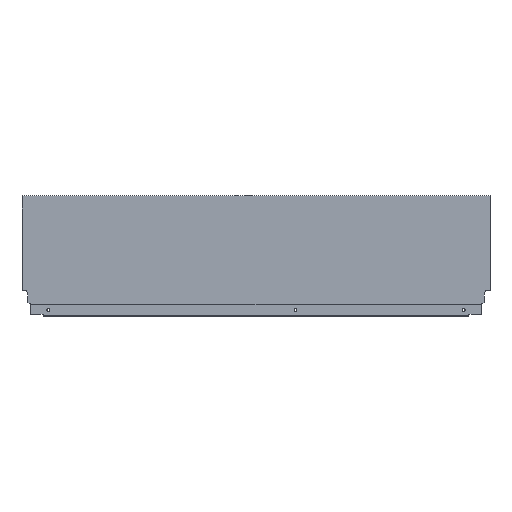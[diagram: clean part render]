
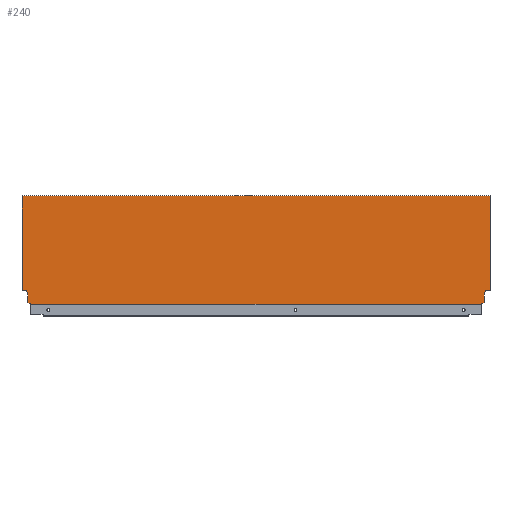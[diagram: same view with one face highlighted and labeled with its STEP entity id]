
A CAD part, top view. The second image highlights one B-rep face of the part: STEP entity #240.
In plain terms, the highlighted planar face has unit normal (0, 0, 1).
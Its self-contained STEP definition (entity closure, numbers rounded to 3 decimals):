
#24 = EDGE_CURVE ( 'NONE', #862, #307, #1053, .T. ) ;
#25 = EDGE_CURVE ( 'NONE', #920, #917, #1058, .T. ) ;
#26 = EDGE_CURVE ( 'NONE', #307, #311, #1057, .T. ) ;
#27 = EDGE_CURVE ( 'NONE', #311, #850, #1056, .T. ) ;
#28 = EDGE_CURVE ( 'NONE', #860, #867, #1061, .T. ) ;
#29 = EDGE_CURVE ( 'NONE', #850, #849, #1063, .T. ) ;
#30 = EDGE_CURVE ( 'NONE', #900, #302, #1070, .T. ) ;
#31 = EDGE_CURVE ( 'NONE', #302, #883, #1065, .T. ) ;
#32 = EDGE_CURVE ( 'NONE', #883, #878, #1067, .T. ) ;
#33 = EDGE_CURVE ( 'NONE', #878, #867, #1069, .T. ) ;
#34 = EDGE_CURVE ( 'NONE', #860, #920, #1073, .T. ) ;
#35 = EDGE_CURVE ( 'NONE', #882, #849, #1075, .T. ) ;
#38 = EDGE_CURVE ( 'NONE', #882, #900, #1079, .T. ) ;
#40 = EDGE_CURVE ( 'NONE', #917, #862, #1084, .T. ) ;
#182 = AXIS2_PLACEMENT_3D ( 'NONE', #619, #621, #631 ) ;
#240 = ADVANCED_FACE ( 'NONE', ( #1325 ), #617, .T. ) ;
#283 = DIRECTION ( 'NONE',  ( 0., 1., 0. ) ) ;
#284 = DIRECTION ( 'NONE',  ( 0., -1., 0. ) ) ;
#285 = CARTESIAN_POINT ( 'NONE',  ( -702.1, 10.765, 7.5 ) ) ;
#287 = CARTESIAN_POINT ( 'NONE',  ( -7.06, 21.2, 7.5 ) ) ;
#302 = VERTEX_POINT ( 'NONE', #654 ) ;
#307 = VERTEX_POINT ( 'NONE', #588 ) ;
#311 = VERTEX_POINT ( 'NONE', #591 ) ;
#312 = CARTESIAN_POINT ( 'NONE',  ( -711., 0., 7.5 ) ) ;
#313 = CARTESIAN_POINT ( 'NONE',  ( -8.9, 10.765, 7.5 ) ) ;
#323 = CARTESIAN_POINT ( 'NONE',  ( -8.9, 2.64, 7.5 ) ) ;
#330 = CARTESIAN_POINT ( 'NONE',  ( -697.996, 1.146, 7.5 ) ) ;
#395 = CARTESIAN_POINT ( 'NONE',  ( 0., 0., 7.5 ) ) ;
#401 = DIRECTION ( 'NONE',  ( 0., -1., 0. ) ) ;
#402 = DIRECTION ( 'NONE',  ( 0., -1., 0. ) ) ;
#403 = DIRECTION ( 'NONE',  ( -0.94, -0.342, 0. ) ) ;
#404 = DIRECTION ( 'NONE',  ( 0., -1., 0. ) ) ;
#408 = CARTESIAN_POINT ( 'NONE',  ( -697.996, 1.146, 7.5 ) ) ;
#409 = DIRECTION ( 'NONE',  ( 0., 1., 0. ) ) ;
#413 = DIRECTION ( 'NONE',  ( 1., 0., 0. ) ) ;
#415 = DIRECTION ( 'NONE',  ( -1., 0., 0. ) ) ;
#416 = CARTESIAN_POINT ( 'NONE',  ( -711., 0., 7.5 ) ) ;
#417 = DIRECTION ( 'NONE',  ( -0.174, 0.985, 0. ) ) ;
#418 = CARTESIAN_POINT ( 'NONE',  ( -711., 164.7, 7.5 ) ) ;
#420 = CARTESIAN_POINT ( 'NONE',  ( -716., 21.2, 7.5 ) ) ;
#428 = CARTESIAN_POINT ( 'NONE',  ( -702.1, 2.64, 7.5 ) ) ;
#439 = CARTESIAN_POINT ( 'NONE',  ( -703.94, 21.2, 7.5 ) ) ;
#449 = DIRECTION ( 'NONE',  ( -0.174, -0.985, 0. ) ) ;
#450 = CARTESIAN_POINT ( 'NONE',  ( -13.004, 1.146, 7.5 ) ) ;
#516 = CARTESIAN_POINT ( 'NONE',  ( 0., 164.7, 7.5 ) ) ;
#521 = CARTESIAN_POINT ( 'NONE',  ( 0., 21.2, 7.5 ) ) ;
#529 = CARTESIAN_POINT ( 'NONE',  ( -702.1, 10.765, 7.5 ) ) ;
#530 = CARTESIAN_POINT ( 'NONE',  ( -697.996, 0., 7.5 ) ) ;
#532 = CARTESIAN_POINT ( 'NONE',  ( -13.004, 1.146, 7.5 ) ) ;
#539 = CARTESIAN_POINT ( 'NONE',  ( -711., 164.7, 7.5 ) ) ;
#548 = CARTESIAN_POINT ( 'NONE',  ( -7.06, 21.2, 7.5 ) ) ;
#555 = CARTESIAN_POINT ( 'NONE',  ( -711., 21.2, 7.5 ) ) ;
#566 = CARTESIAN_POINT ( 'NONE',  ( -703.94, 21.2, 7.5 ) ) ;
#585 = CARTESIAN_POINT ( 'NONE',  ( -13.004, 0., 7.5 ) ) ;
#588 = CARTESIAN_POINT ( 'NONE',  ( -8.9, 10.765, 7.5 ) ) ;
#591 = CARTESIAN_POINT ( 'NONE',  ( -8.9, 2.64, 7.5 ) ) ;
#617 = PLANE ( 'NONE',  #182 ) ;
#619 = CARTESIAN_POINT ( 'NONE',  ( -711., 0., 7.5 ) ) ;
#621 = DIRECTION ( 'NONE',  ( 0., 0., 1. ) ) ;
#631 = DIRECTION ( 'NONE',  ( 1., 0., 0. ) ) ;
#654 = CARTESIAN_POINT ( 'NONE',  ( -702.1, 2.64, 7.5 ) ) ;
#748 = CARTESIAN_POINT ( 'NONE',  ( 0., 21.2, 7.5 ) ) ;
#752 = DIRECTION ( 'NONE',  ( 1., 0., 0. ) ) ;
#757 = DIRECTION ( 'NONE',  ( -1., 0., 0. ) ) ;
#816 = DIRECTION ( 'NONE',  ( -0.94, 0.342, 0. ) ) ;
#849 = VERTEX_POINT ( 'NONE', #585 ) ;
#850 = VERTEX_POINT ( 'NONE', #532 ) ;
#860 = VERTEX_POINT ( 'NONE', #539 ) ;
#862 = VERTEX_POINT ( 'NONE', #548 ) ;
#867 = VERTEX_POINT ( 'NONE', #555 ) ;
#878 = VERTEX_POINT ( 'NONE', #566 ) ;
#882 = VERTEX_POINT ( 'NONE', #530 ) ;
#883 = VERTEX_POINT ( 'NONE', #529 ) ;
#900 = VERTEX_POINT ( 'NONE', #330 ) ;
#917 = VERTEX_POINT ( 'NONE', #521 ) ;
#920 = VERTEX_POINT ( 'NONE', #516 ) ;
#972 = ORIENTED_EDGE ( 'NONE', *, *, #24, .F. ) ;
#973 = ORIENTED_EDGE ( 'NONE', *, *, #25, .F. ) ;
#974 = ORIENTED_EDGE ( 'NONE', *, *, #40, .F. ) ;
#978 = ORIENTED_EDGE ( 'NONE', *, *, #34, .F. ) ;
#982 = ORIENTED_EDGE ( 'NONE', *, *, #26, .F. ) ;
#983 = ORIENTED_EDGE ( 'NONE', *, *, #27, .F. ) ;
#1006 = ORIENTED_EDGE ( 'NONE', *, *, #35, .T. ) ;
#1013 = EDGE_LOOP ( 'NONE', ( #1345, #1346, #1347, #1348, #1349, #1350, #1006, #1022, #983, #982, #972, #974, #973, #978 ) ) ;
#1022 = ORIENTED_EDGE ( 'NONE', *, *, #29, .F. ) ;
#1047 = VECTOR ( 'NONE', #449, 1000. ) ;
#1053 = LINE ( 'NONE', #287, #1047 ) ;
#1056 = LINE ( 'NONE', #323, #1064 ) ;
#1057 = LINE ( 'NONE', #313, #1062 ) ;
#1058 = LINE ( 'NONE', #395, #1060 ) ;
#1060 = VECTOR ( 'NONE', #402, 1000. ) ;
#1061 = LINE ( 'NONE', #312, #1066 ) ;
#1062 = VECTOR ( 'NONE', #401, 1000. ) ;
#1063 = LINE ( 'NONE', #450, #1068 ) ;
#1064 = VECTOR ( 'NONE', #403, 1000. ) ;
#1065 = LINE ( 'NONE', #285, #1072 ) ;
#1066 = VECTOR ( 'NONE', #404, 1000. ) ;
#1067 = LINE ( 'NONE', #439, #1074 ) ;
#1068 = VECTOR ( 'NONE', #284, 1000. ) ;
#1069 = LINE ( 'NONE', #420, #1076 ) ;
#1070 = LINE ( 'NONE', #428, #1071 ) ;
#1071 = VECTOR ( 'NONE', #816, 1000. ) ;
#1072 = VECTOR ( 'NONE', #283, 1000. ) ;
#1073 = LINE ( 'NONE', #418, #1078 ) ;
#1074 = VECTOR ( 'NONE', #417, 1000. ) ;
#1075 = LINE ( 'NONE', #416, #1080 ) ;
#1076 = VECTOR ( 'NONE', #415, 1000. ) ;
#1077 = VECTOR ( 'NONE', #409, 1000. ) ;
#1078 = VECTOR ( 'NONE', #413, 1000. ) ;
#1079 = LINE ( 'NONE', #408, #1077 ) ;
#1080 = VECTOR ( 'NONE', #752, 1000. ) ;
#1084 = LINE ( 'NONE', #748, #1088 ) ;
#1088 = VECTOR ( 'NONE', #757, 1000. ) ;
#1325 = FACE_OUTER_BOUND ( 'NONE', #1013, .T. ) ;
#1345 = ORIENTED_EDGE ( 'NONE', *, *, #28, .T. ) ;
#1346 = ORIENTED_EDGE ( 'NONE', *, *, #33, .F. ) ;
#1347 = ORIENTED_EDGE ( 'NONE', *, *, #32, .F. ) ;
#1348 = ORIENTED_EDGE ( 'NONE', *, *, #31, .F. ) ;
#1349 = ORIENTED_EDGE ( 'NONE', *, *, #30, .F. ) ;
#1350 = ORIENTED_EDGE ( 'NONE', *, *, #38, .F. ) ;
